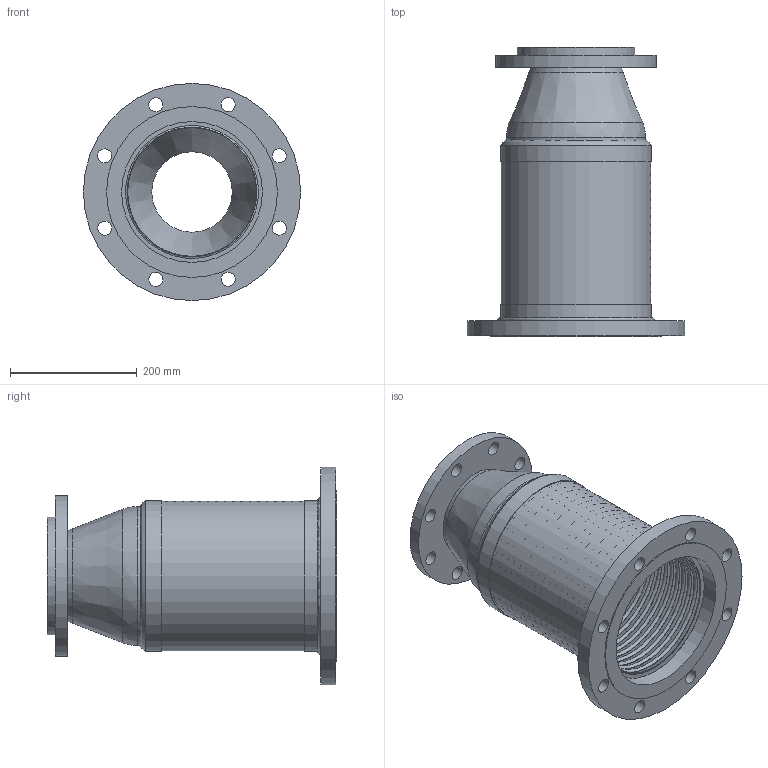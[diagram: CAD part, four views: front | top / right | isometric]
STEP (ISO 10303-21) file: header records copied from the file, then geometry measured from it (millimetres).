
FILE_DESCRIPTION((''),'2;1');
FILE_NAME('C:\2012_Work\Designs\RFFL\RFFL-8x5in.stp','2013-08-20T09:48:06',('KShiels'),(''),'Autodesk Inventor 2012','Autodesk Inventor 2012','');
FILE_SCHEMA(('AUTOMOTIVE_DESIGN { 1 0 10303 214 1 1 1 1 }'));
Length unit declared in the file: inch
Products named in the file (9): RFFL-8x5in; RFFL-8x5in_Welds; A-31003_8in_RFFL-BRAID; A-31003_8in_RFFL-BELLOWS; A-31003_8in_RFFL-BRAID-COLLAR; A-30988_8in-FIXED-FLANGE; A-30989_5in-FLOATING-FLANGE; A-30991_8x5in-REDUCER; A-30990_5in-WASHER
Assembly tree (9 placements, depth 2):
  RFFL-8x5in
    RFFL-8x5in_Welds
    A-31003_8in_RFFL-BRAID
    A-31003_8in_RFFL-BELLOWS
    A-31003_8in_RFFL-BRAID-COLLAR  x2
    A-30988_8in-FIXED-FLANGE
    A-30989_5in-FLOATING-FLANGE
    A-30991_8x5in-REDUCER
    A-30990_5in-WASHER
Bounding box: 342.9 x 457.41 x 342.9 mm (x, y, z)
Volume: 3039590.6 mm3; surface area: 2104297 mm2
Topology: 11 solids, 11 shells, 236 faces, 411 edges, 279 vertices
Faces by surface type: plane 104, torus 87, cylinder 36, cone 5, bspline 4
Full cylindrical faces by diameter (mm): 22.225 x16, 127 x1, 140.106 x1, 144.463 x3, 185.738 x1, 203.2 x1, 219.558 x2, 222.25 x1, 234.95 x1, 235.966 x3, 238.347 x3, 254 x1, 269.875 x1, 342.9 x1
Entity records: 6130 total; most frequent: CARTESIAN_POINT 1667, DIRECTION 976, ORIENTED_EDGE 514, EDGE_LOOP 493, AXIS2_PLACEMENT_3D 488, FACE_BOUND 261, EDGE_CURVE 257, VERTEX_POINT 254
